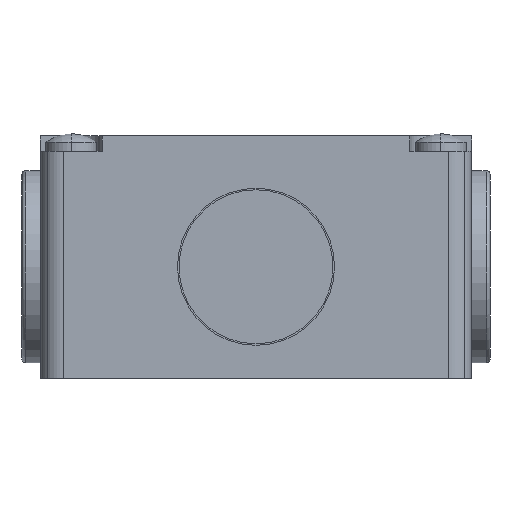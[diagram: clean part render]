
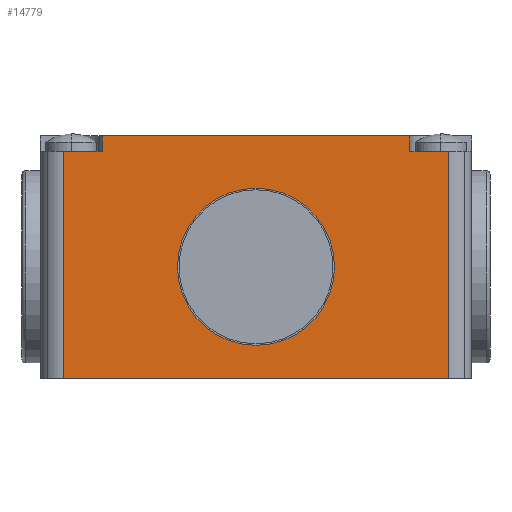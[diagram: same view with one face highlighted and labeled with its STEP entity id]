
A CAD part, front view. The second image highlights one B-rep face of the part: STEP entity #14779.
In plain terms, the highlighted planar face has unit normal (0, -1, 0).
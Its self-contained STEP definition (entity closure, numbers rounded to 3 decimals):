
#104 = ORIENTED_EDGE ( 'NONE', *, *, #1816, .T. ) ;
#288 = CARTESIAN_POINT ( 'NONE',  ( 25., -56.8, -14.5 ) ) ;
#493 = CARTESIAN_POINT ( 'NONE',  ( 0., -56.8, 10.2 ) ) ;
#730 = EDGE_CURVE ( 'NONE', #4490, #5749, #3456, .T. ) ;
#774 = CARTESIAN_POINT ( 'NONE',  ( 0., -56.8, -10.2 ) ) ;
#851 = CARTESIAN_POINT ( 'NONE',  ( -20., -56.8, 15. ) ) ;
#900 = LINE ( 'NONE', #15120, #14119 ) ;
#1034 = CARTESIAN_POINT ( 'NONE',  ( -25., -56.8, -14.5 ) ) ;
#1296 = PLANE ( 'NONE',  #6545 ) ;
#1699 = EDGE_CURVE ( 'NONE', #5645, #4490, #2392, .T. ) ;
#1812 = CARTESIAN_POINT ( 'NONE',  ( -20., -56.8, 17. ) ) ;
#1816 = EDGE_CURVE ( 'NONE', #9845, #6699, #8613, .T. ) ;
#2088 = VERTEX_POINT ( 'NONE', #1812 ) ;
#2238 = VERTEX_POINT ( 'NONE', #774 ) ;
#2359 = DIRECTION ( 'NONE',  ( 0., 0., 1. ) ) ;
#2375 = EDGE_CURVE ( 'NONE', #2088, #5749, #8997, .T. ) ;
#2392 = LINE ( 'NONE', #7984, #12537 ) ;
#2564 = ORIENTED_EDGE ( 'NONE', *, *, #730, .T. ) ;
#2742 = CARTESIAN_POINT ( 'NONE',  ( -28., -56.8, 15. ) ) ;
#3046 = VECTOR ( 'NONE', #7051, 1000. ) ;
#3073 = DIRECTION ( 'NONE',  ( 1., 0., 0. ) ) ;
#3456 = LINE ( 'NONE', #4339, #3046 ) ;
#3903 = CARTESIAN_POINT ( 'NONE',  ( -25., -56.8, 17. ) ) ;
#3968 = CARTESIAN_POINT ( 'NONE',  ( -25., -56.8, -14.5 ) ) ;
#4219 = VERTEX_POINT ( 'NONE', #493 ) ;
#4227 = DIRECTION ( 'NONE',  ( 0., 0., 1. ) ) ;
#4243 = LINE ( 'NONE', #1034, #10839 ) ;
#4308 = EDGE_CURVE ( 'NONE', #16606, #2088, #14404, .T. ) ;
#4339 = CARTESIAN_POINT ( 'NONE',  ( 20., -56.8, 15. ) ) ;
#4356 = CARTESIAN_POINT ( 'NONE',  ( -25., -56.8, -14.5 ) ) ;
#4484 = EDGE_CURVE ( 'NONE', #2238, #4219, #12340, .T. ) ;
#4490 = VERTEX_POINT ( 'NONE', #12302 ) ;
#4927 = ORIENTED_EDGE ( 'NONE', *, *, #4484, .F. ) ;
#5107 = VECTOR ( 'NONE', #3073, 1000. ) ;
#5185 = ORIENTED_EDGE ( 'NONE', *, *, #2375, .F. ) ;
#5312 = DIRECTION ( 'NONE',  ( 0., 0., -1. ) ) ;
#5645 = VERTEX_POINT ( 'NONE', #13518 ) ;
#5749 = VERTEX_POINT ( 'NONE', #9783 ) ;
#5976 = EDGE_CURVE ( 'NONE', #9845, #12002, #4243, .T. ) ;
#6232 = ORIENTED_EDGE ( 'NONE', *, *, #1699, .T. ) ;
#6381 = EDGE_CURVE ( 'NONE', #4219, #2238, #9802, .T. ) ;
#6516 = ORIENTED_EDGE ( 'NONE', *, *, #6381, .F. ) ;
#6545 = AXIS2_PLACEMENT_3D ( 'NONE', #3968, #13188, #5312 ) ;
#6618 = FACE_OUTER_BOUND ( 'NONE', #9791, .T. ) ;
#6699 = VERTEX_POINT ( 'NONE', #288 ) ;
#6869 = EDGE_CURVE ( 'NONE', #6699, #5645, #900, .T. ) ;
#7051 = DIRECTION ( 'NONE',  ( 0., 0., 1. ) ) ;
#7058 = CARTESIAN_POINT ( 'NONE',  ( 0., -56.8, 0. ) ) ;
#7234 = DIRECTION ( 'NONE',  ( 0., -1., 0. ) ) ;
#7424 = ORIENTED_EDGE ( 'NONE', *, *, #4308, .F. ) ;
#7566 = ORIENTED_EDGE ( 'NONE', *, *, #14849, .F. ) ;
#7984 = CARTESIAN_POINT ( 'NONE',  ( 28., -56.8, 15. ) ) ;
#8383 = DIRECTION ( 'NONE',  ( 0., 0., -1. ) ) ;
#8613 = LINE ( 'NONE', #9674, #5107 ) ;
#8729 = DIRECTION ( 'NONE',  ( 0., 0., 1. ) ) ;
#8997 = LINE ( 'NONE', #3903, #12915 ) ;
#9674 = CARTESIAN_POINT ( 'NONE',  ( -25., -56.8, -14.5 ) ) ;
#9783 = CARTESIAN_POINT ( 'NONE',  ( 20., -56.8, 17. ) ) ;
#9791 = EDGE_LOOP ( 'NONE', ( #104, #15687, #6232, #2564, #5185, #7424, #7566, #16978 ) ) ;
#9802 = CIRCLE ( 'NONE', #13852, 10.2 ) ;
#9845 = VERTEX_POINT ( 'NONE', #4356 ) ;
#10839 = VECTOR ( 'NONE', #2359, 1000. ) ;
#10892 = VECTOR ( 'NONE', #8729, 1000. ) ;
#12002 = VERTEX_POINT ( 'NONE', #14432 ) ;
#12302 = CARTESIAN_POINT ( 'NONE',  ( 20., -56.8, 15. ) ) ;
#12340 = CIRCLE ( 'NONE', #16711, 10.2 ) ;
#12537 = VECTOR ( 'NONE', #13289, 1000. ) ;
#12810 = VECTOR ( 'NONE', #15984, 1000. ) ;
#12915 = VECTOR ( 'NONE', #13132, 1000. ) ;
#13132 = DIRECTION ( 'NONE',  ( 1., 0., 0. ) ) ;
#13188 = DIRECTION ( 'NONE',  ( 0., -1., 0. ) ) ;
#13289 = DIRECTION ( 'NONE',  ( -1., 0., 0. ) ) ;
#13518 = CARTESIAN_POINT ( 'NONE',  ( 25., -56.8, 15. ) ) ;
#13653 = FACE_BOUND ( 'NONE', #15625, .T. ) ;
#13852 = AXIS2_PLACEMENT_3D ( 'NONE', #15146, #7234, #16480 ) ;
#14119 = VECTOR ( 'NONE', #4227, 1000. ) ;
#14404 = LINE ( 'NONE', #15318, #10892 ) ;
#14432 = CARTESIAN_POINT ( 'NONE',  ( -25., -56.8, 15. ) ) ;
#14779 = ADVANCED_FACE ( 'NONE', ( #13653, #6618 ), #1296, .T. ) ;
#14849 = EDGE_CURVE ( 'NONE', #12002, #16606, #16742, .T. ) ;
#15120 = CARTESIAN_POINT ( 'NONE',  ( 25., -56.8, -14.5 ) ) ;
#15146 = CARTESIAN_POINT ( 'NONE',  ( 0., -56.8, 0. ) ) ;
#15318 = CARTESIAN_POINT ( 'NONE',  ( -20., -56.8, 15. ) ) ;
#15625 = EDGE_LOOP ( 'NONE', ( #4927, #6516 ) ) ;
#15687 = ORIENTED_EDGE ( 'NONE', *, *, #6869, .T. ) ;
#15984 = DIRECTION ( 'NONE',  ( 1., 0., 0. ) ) ;
#16301 = DIRECTION ( 'NONE',  ( 0., -1., 0. ) ) ;
#16480 = DIRECTION ( 'NONE',  ( 0., 0., -1. ) ) ;
#16606 = VERTEX_POINT ( 'NONE', #851 ) ;
#16711 = AXIS2_PLACEMENT_3D ( 'NONE', #7058, #16301, #8383 ) ;
#16742 = LINE ( 'NONE', #2742, #12810 ) ;
#16978 = ORIENTED_EDGE ( 'NONE', *, *, #5976, .F. ) ;
